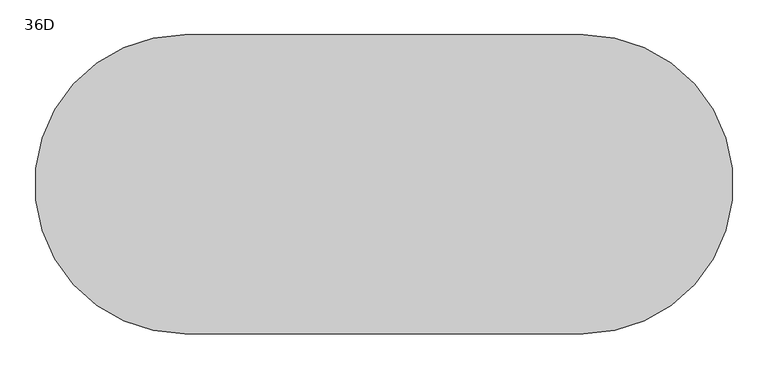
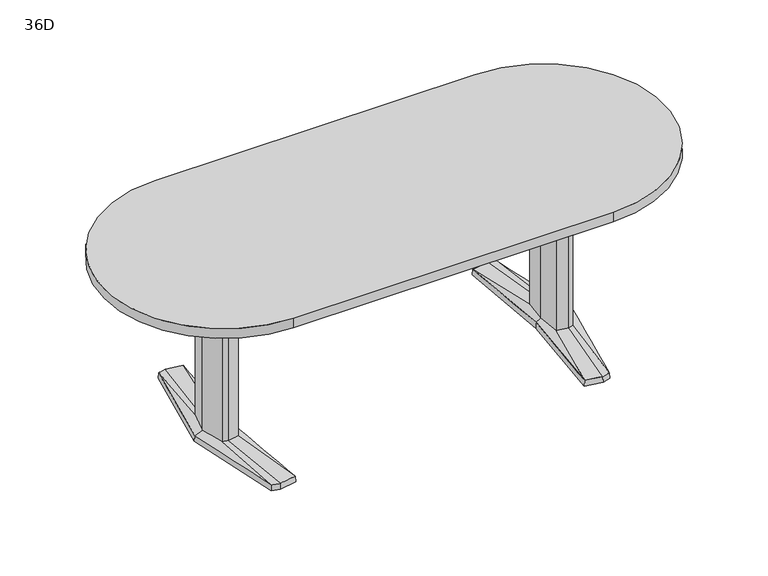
"""IFC4 building model written with IfcOpenShell, lengths in millimetres: furniture geometry, Coalesse_AM_Table_Conference_ETable2_Racetrack_84in_AluminiumBase : 36D."""

from ifc_helpers import new_model, si_unit, point, frame, frame_2d, origin, place, context, project, spatial, polyline, circle_curve, trimmed, segment, composite_curve, outline, extrude, source, transform, mapped, element, save
from ifc_brep_helpers import plane_surface, spline_surface, advanced_brep


def furniture_36d_a4c65f50(model_context):
    return source(origin(), model_context, "Body", "SolidModel", [
        advanced_brep(
        [(614.8503471, -379.3768856, 25.4), (644.5756636, -371.5332654, 25.4), (668.2327243, -89.293702, 36.5125), (648.9795254, -94.605478, 36.5125), (606.0521001, -87.0529327, 36.5125), (551.7612538, -368.5071562, 25.4), (597.9364207, 0.0, 36.5125), (579.8389754, 0.3970149, 25.4), (606.0521001, 87.0529327, 36.5125), (551.7615002, 368.5172593, 25.4), (648.9795254, 94.605478, 36.5125), (614.8502233, 379.3769183, 25.4), (668.2327243, 89.293702, 36.5125), (644.7535458, 371.4863276, 25.4), (692.1595251, 0.0, 36.5125), (721.4851663, 0.0003516, 25.4), (578.2468742, 0.3968871, 3.175), (550.06875, 369.8367279, 3.175), (614.9213004, 381.0, 3.175), (646.1093245, 372.7704151, 3.175), (723.10625, 0.0, 3.175), (645.9309817, -372.8174744, 3.175), (614.9213004, -381.0, 3.175), (550.06875, -369.8264415, 3.175), (649.5979264, 107.6121478, 3.175), (594.3065451, 97.8843184, 3.175), (585.1810887, 0.0, 3.175), (594.3065451, -97.8843184, 3.175), (649.5979264, -107.6121478, 3.175), (678.6183473, -99.6056872, 3.175), (705.3083085, 0.0, 3.175), (678.6183473, 99.6056872, 3.175), (613.4286812, 346.9152841, 3.175), (557.7811371, 337.3364985, 3.175), (560.1889918, 324.8641942, 3.175), (612.8600644, 333.9306305, 3.175), (648.6725609, 324.4807859, 3.175), (647.5544526, 337.9105158, 3.175), (613.4286812, -346.9152841, 3.175), (647.5544526, -337.9105158, 3.175), (648.6725609, -324.4807859, 3.175), (612.8600644, -333.9306305, 3.175), (560.1889918, -324.8641942, 3.175), (557.7811371, -337.3364985, 3.175), (649.5979264, 107.6121478, 0.0), (678.6183473, 99.6056872, 0.0), (705.3083085, 0.0, 0.0), (678.6183473, -99.6056872, 0.0), (649.5979264, -107.6121478, 0.0), (594.3065451, -97.8843184, 0.0), (585.1810887, 0.0, 0.0), (594.3065451, 97.8843184, 0.0), (613.4286812, 346.9152841, 0.0), (647.5544526, 337.9105158, 0.0), (648.6725609, 324.4807859, 0.0), (612.8600644, 333.9306305, 0.0), (560.1889918, 324.8641942, 0.0), (557.7811371, 337.3364985, 0.0), (613.4286812, -346.9152841, 0.0), (557.7811371, -337.3364985, 0.0), (560.1889918, -324.8641942, 0.0), (612.8600644, -333.9306305, 0.0), (648.6725609, -324.4807859, 0.0), (647.5544526, -337.9105158, 0.0), (668.2327243, 89.293702, 698.5), (648.9795254, 94.605478, 698.5), (606.0521001, 87.0529327, 698.5), (597.9364207, 0.0, 698.5), (606.0521001, -87.0529327, 698.5), (648.9795254, -94.605478, 698.5), (668.2327243, -89.293702, 698.5), (692.1595251, 0.0, 698.5)],
        [
            (0, 1),
            (1, 2),
            (2, 3),
            (3, 0),
            (3, 4),
            (4, 5),
            (5, 0),
            (4, 6),
            (6, 7),
            (7, 5),
            (6, 8),
            (8, 9),
            (9, 7),
            (8, 10),
            (10, 11),
            (11, 9),
            (10, 12),
            (12, 13),
            (13, 11),
            (12, 14),
            (14, 15),
            (15, 13),
            (1, 15),
            (14, 2),
            (16, 17),
            (17, 18),
            (18, 19),
            (19, 20),
            (20, 21),
            (21, 22),
            (22, 23),
            (23, 16),
            (24, 25),
            (25, 26),
            (26, 27),
            (27, 28),
            (28, 29),
            (29, 30),
            (30, 31),
            (31, 24),
            (32, 33),
            (33, 34),
            (34, 35),
            (35, 36),
            (36, 37),
            (37, 32),
            (38, 39),
            (39, 40),
            (40, 41),
            (41, 42),
            (42, 43),
            (43, 38),
            (16, 7),
            (9, 17),
            (11, 18),
            (13, 19),
            (15, 20),
            (1, 21),
            (0, 22),
            (5, 23),
            (44, 45),
            (45, 46),
            (46, 47),
            (47, 48),
            (48, 49),
            (49, 50),
            (50, 51),
            (51, 44),
            (52, 53),
            (53, 54),
            (54, 55),
            (55, 56),
            (56, 57),
            (57, 52),
            (58, 59),
            (59, 60),
            (60, 61),
            (61, 62),
            (62, 63),
            (63, 58),
            (44, 24),
            (31, 45),
            (30, 46),
            (29, 47),
            (28, 48),
            (27, 49),
            (26, 50),
            (25, 51),
            (52, 32),
            (37, 53),
            (36, 54),
            (35, 55),
            (34, 56),
            (33, 57),
            (58, 38),
            (43, 59),
            (42, 60),
            (41, 61),
            (40, 62),
            (39, 63),
            (64, 65),
            (65, 66),
            (66, 67),
            (67, 68),
            (68, 69),
            (69, 70),
            (70, 71),
            (71, 64),
            (71, 14),
            (12, 64),
            (70, 2),
            (69, 3),
            (68, 4),
            (67, 6),
            (66, 8),
            (65, 10),
        ],
        [
            spline_surface(1, 1, [[(644.5756636, -371.5332654, 25.4), (614.8503471, -379.3768856, 25.4)], [(668.2327243, -89.293702, 36.5125), (648.9795254, -94.605478, 36.5125)]], [2, 2], [2, 2], [0.0, 1.0], [0.0, 1.0]),
            spline_surface(1, 1, [[(614.8503471, -379.3768856, 25.4), (551.7612538, -368.5071562, 25.4)], [(648.9795254, -94.605478, 36.5125), (606.0521001, -87.0529327, 36.5125)]], [2, 2], [2, 2], [0.0, 1.0], [0.0, 1.0]),
            spline_surface(1, 1, [[(551.7612538, -368.5071562, 25.4), (579.8389754, 0.3970149, 25.4)], [(606.0521001, -87.0529327, 36.5125), (597.9364207, 0.0, 36.5125)]], [2, 2], [2, 2], [0.0, 1.0], [0.0, 1.0]),
            spline_surface(1, 1, [[(579.8389754, 0.3970149, 25.4), (551.7615002, 368.5172593, 25.4)], [(597.9364207, 0.0, 36.5125), (606.0521001, 87.0529327, 36.5125)]], [2, 2], [2, 2], [0.0, 1.0], [0.0, 1.0]),
            spline_surface(1, 1, [[(551.7615002, 368.5172593, 25.4), (614.8502233, 379.3769183, 25.4)], [(606.0521001, 87.0529327, 36.5125), (648.9795254, 94.605478, 36.5125)]], [2, 2], [2, 2], [0.0, 1.0], [0.0, 1.0]),
            spline_surface(1, 1, [[(614.8502233, 379.3769183, 25.4), (644.7535458, 371.4863276, 25.4)], [(648.9795254, 94.605478, 36.5125), (668.2327243, 89.293702, 36.5125)]], [2, 2], [2, 2], [0.0, 1.0], [0.0, 1.0]),
            spline_surface(1, 1, [[(644.7535458, 371.4863276, 25.4), (721.4851663, 0.0003516, 25.4)], [(668.2327243, 89.293702, 36.5125), (692.1595251, 0.0, 36.5125)]], [2, 2], [2, 2], [0.0, 1.0], [0.0, 1.0]),
            spline_surface(1, 1, [[(721.4851663, 0.0003516, 25.4), (644.5756636, -371.5332654, 25.4)], [(692.1595251, 0.0, 36.5125), (668.2327243, -89.293702, 36.5125)]], [2, 2], [2, 2], [0.0, 1.0], [0.0, 1.0]),
            plane_surface(frame((615.4216914, 0.0450143, 3.175), z_axis=(0.0, 0.0, -1.0), x_axis=(-0.9669048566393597, -0.2551372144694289, 0.0))),
            plane_surface(frame((564.1578121, 185.1168075, 3.175), z_axis=(-0.9945699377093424, -0.07585840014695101, 0.0712470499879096), x_axis=(-0.07605167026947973, 0.9971038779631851, 0.0))),
            plane_surface(frame((582.4950252, 375.418364, 3.175), z_axis=(-0.1692071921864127, 0.9830019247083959, 0.07124704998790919), x_axis=(0.985506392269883, 0.16963829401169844, 0.0))),
            plane_surface(frame((630.5153124, 376.8852076, 3.175), z_axis=(0.2544888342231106, 0.9644476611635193, 0.07124704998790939), x_axis=(0.9669048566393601, -0.25513721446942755, 0.0))),
            plane_surface(frame((684.6077872, 186.3852076, 3.175), z_axis=(0.9768383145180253, 0.2017690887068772, 0.07124704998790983), x_axis=(0.20228315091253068, -0.9793270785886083, 0.0))),
            plane_surface(frame((684.5186158, -186.4087372, 3.175), z_axis=(0.9767507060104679, -0.20219276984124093, 0.07124704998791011), x_axis=(-0.2027079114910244, -0.9792392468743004, 0.0))),
            plane_surface(frame((630.426141, -376.9087372, 3.175), z_axis=(0.2544888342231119, -0.9644476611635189, 0.0712470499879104), x_axis=(-0.9669048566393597, -0.2551372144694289, 0.0))),
            plane_surface(frame((582.4950252, -375.4132207, 3.175), z_axis=(-0.16935861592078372, -0.982975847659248, 0.07124704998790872), x_axis=(-0.9854802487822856, 0.16979010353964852, 0.0))),
            plane_surface(frame((564.1578121, -184.7147772, 3.175), z_axis=(-0.9945820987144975, 0.07569878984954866, 0.07124704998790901), x_axis=(0.07589165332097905, 0.9971160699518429, 0.0))),
            plane_surface(frame((652.3571479, 106.8509046, 0.0), z_axis=(0.0, 0.0, -1.0000000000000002), x_axis=(-0.9639855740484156, 0.26595453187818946, 0.0))),
            plane_surface(frame((649.5979264, 107.6121478, 3.175), z_axis=(0.26595453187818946, 0.9639855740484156, 0.0), x_axis=(0.0, 0.0, -1.0))),
            plane_surface(frame((678.6183473, 99.6056872, 3.175), z_axis=(0.9659241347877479, 0.2588253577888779, 0.0), x_axis=(0.0, 0.0, -1.0))),
            plane_surface(frame((705.3083085, 0.0, 3.175), z_axis=(0.9659241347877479, -0.2588253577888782, 0.0), x_axis=(0.0, 0.0, -1.0))),
            plane_surface(frame((678.6183473, -99.6056872, 3.175), z_axis=(0.26595453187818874, -0.9639855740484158, 0.0), x_axis=(0.0, 0.0, -1.0))),
            plane_surface(frame((649.5979264, -107.6121478, 3.175), z_axis=(-0.17327617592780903, -0.9848732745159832, 0.0), x_axis=(0.0, 0.0, -1.0))),
            plane_surface(frame((594.3065451, -97.8843184, 3.175), z_axis=(-0.9956824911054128, -0.0928244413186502, 0.0), x_axis=(0.0, 0.0, -1.0))),
            plane_surface(frame((585.1810887, 0.0, 3.175), z_axis=(-0.9956824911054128, 0.09282444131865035, 0.0), x_axis=(0.0, 0.0, -1.0))),
            plane_surface(frame((594.3065451, 97.8843184, 3.175), z_axis=(-0.17327617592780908, 0.984873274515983, 0.0), x_axis=(0.0, 0.0, -1.0))),
            plane_surface(frame((613.4286812, 346.9152841, 3.175), z_axis=(0.25513721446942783, 0.9669048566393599, 0.0), x_axis=(0.0, 0.0, -1.0))),
            plane_surface(frame((647.5544526, 337.9105158, 3.175), z_axis=(0.9965521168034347, 0.0829691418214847, 0.0), x_axis=(0.0, 0.0, -1.0))),
            plane_surface(frame((648.6725609, 324.4807859, 3.175), z_axis=(-0.25513721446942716, -0.9669048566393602, 0.0), x_axis=(0.0, 0.0, -1.0))),
            plane_surface(frame((612.8600644, 333.9306305, 3.175), z_axis=(0.16963829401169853, -0.985506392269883, 0.0), x_axis=(0.0, 0.0, -1.0))),
            plane_surface(frame((560.1889918, 324.8641942, 3.175), z_axis=(-0.9818699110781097, -0.18955600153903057, 0.0), x_axis=(0.0, 0.0, -1.0))),
            plane_surface(frame((557.7811371, 337.3364985, 3.175), z_axis=(-0.16963829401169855, 0.9855063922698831, 0.0), x_axis=(0.0, 0.0, -1.0))),
            plane_surface(frame((613.4286812, -346.9152841, 3.175), z_axis=(-0.1696382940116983, -0.9855063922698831, 0.0), x_axis=(0.0, 0.0, -1.0))),
            plane_surface(frame((557.7811371, -337.3364985, 3.175), z_axis=(-0.9818699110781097, 0.18955600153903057, 0.0), x_axis=(0.0, 0.0, -1.0))),
            plane_surface(frame((560.1889918, -324.8641942, 3.175), z_axis=(0.16963829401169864, 0.985506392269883, 0.0), x_axis=(0.0, 0.0, -1.0))),
            plane_surface(frame((612.8600644, -333.9306305, 3.175), z_axis=(-0.2551372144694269, 0.9669048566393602, 0.0), x_axis=(0.0, 0.0, -1.0))),
            plane_surface(frame((648.6725609, -324.4807859, 3.175), z_axis=(0.9965521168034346, -0.0829691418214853, 0.0), x_axis=(0.0, 0.0, -1.0))),
            plane_surface(frame((647.5544526, -337.9105158, 3.175), z_axis=(0.2551372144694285, -0.9669048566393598, 0.0), x_axis=(0.0, 0.0, -1.0))),
            plane_surface(frame((692.1595251, 0.0, 698.5), z_axis=(0.0, 0.0, 1.0), x_axis=(0.25882535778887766, -0.965924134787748, 0.0))),
            plane_surface(frame((668.2327243, 89.293702, 698.5), z_axis=(0.965924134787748, 0.25882535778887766, 0.0), x_axis=(0.0, 0.0, -1.0))),
            plane_surface(frame((692.1595251, 0.0, 698.5), z_axis=(0.965924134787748, -0.2588253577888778, 0.0), x_axis=(0.0, 0.0, -1.0))),
            plane_surface(frame((668.2327243, -89.293702, 698.5), z_axis=(0.2659545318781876, -0.963985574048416, 0.0), x_axis=(0.0, 0.0, -1.0))),
            plane_surface(frame((648.9795254, -94.605478, 698.5), z_axis=(-0.1732761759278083, -0.9848732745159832, 0.0), x_axis=(0.0, 0.0, -1.0))),
            plane_surface(frame((606.0521001, -87.0529327, 698.5), z_axis=(-0.9956824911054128, -0.0928244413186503, 0.0), x_axis=(0.0, 0.0, -1.0))),
            plane_surface(frame((597.9364207, 0.0, 698.5), z_axis=(-0.9956824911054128, 0.09282444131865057, 0.0), x_axis=(0.0, 0.0, -1.0))),
            plane_surface(frame((606.0521001, 87.0529327, 698.5), z_axis=(-0.17327617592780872, 0.9848732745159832, 0.0), x_axis=(0.0, 0.0, -1.0))),
            plane_surface(frame((648.9795254, 94.605478, 698.5), z_axis=(0.26595453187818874, 0.9639855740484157, 0.0), x_axis=(0.0, 0.0, -1.0))),
        ],
        [
            (0, [[1, 2, 3, 4]]),
            (1, [[5, 6, 7, -4]]),
            (2, [[8, 9, 10, -6]]),
            (3, [[11, 12, 13, -9]]),
            (4, [[14, 15, 16, -12]]),
            (5, [[17, 18, 19, -15]]),
            (6, [[20, 21, 22, -18]]),
            (7, [[23, -21, 24, -2]]),
            (8, [[25, 26, 27, 28, 29, 30, 31, 32], [33, 34, 35, 36, 37, 38, 39, 40], [41, 42, 43, 44, 45, 46], [47, 48, 49, 50, 51, 52]]),
            (9, [[53, -13, 54, -25]]),
            (10, [[-54, -16, 55, -26]]),
            (11, [[-55, -19, 56, -27]]),
            (12, [[-56, -22, 57, -28]]),
            (13, [[-57, -23, 58, -29]]),
            (14, [[-58, -1, 59, -30]]),
            (15, [[-59, -7, 60, -31]]),
            (16, [[-60, -10, -53, -32]]),
            (17, [[61, 62, 63, 64, 65, 66, 67, 68]]),
            (17, [[69, 70, 71, 72, 73, 74]]),
            (17, [[75, 76, 77, 78, 79, 80]]),
            (18, [[81, -40, 82, -61]]),
            (19, [[-82, -39, 83, -62]]),
            (20, [[-83, -38, 84, -63]]),
            (21, [[-84, -37, 85, -64]]),
            (22, [[-85, -36, 86, -65]]),
            (23, [[-86, -35, 87, -66]]),
            (24, [[-87, -34, 88, -67]]),
            (25, [[-88, -33, -81, -68]]),
            (26, [[89, -46, 90, -69]]),
            (27, [[-90, -45, 91, -70]]),
            (28, [[-91, -44, 92, -71]]),
            (29, [[-92, -43, 93, -72]]),
            (30, [[-93, -42, 94, -73]]),
            (31, [[-94, -41, -89, -74]]),
            (32, [[95, -52, 96, -75]]),
            (33, [[-96, -51, 97, -76]]),
            (34, [[-97, -50, 98, -77]]),
            (35, [[-98, -49, 99, -78]]),
            (36, [[-99, -48, 100, -79]]),
            (37, [[-100, -47, -95, -80]]),
            (38, [[101, 102, 103, 104, 105, 106, 107, 108]]),
            (39, [[109, -20, 110, -108]]),
            (40, [[111, -24, -109, -107]]),
            (41, [[112, -3, -111, -106]]),
            (42, [[113, -5, -112, -105]]),
            (43, [[114, -8, -113, -104]]),
            (44, [[115, -11, -114, -103]]),
            (45, [[116, -14, -115, -102]]),
            (46, [[-110, -17, -116, -101]]),
        ],
    ),
        advanced_brep(
        [(-614.8503471, -379.3768856, 25.4), (-648.9795254, -94.605478, 36.5125), (-668.2327243, -89.293702, 36.5125), (-644.5756636, -371.5332654, 25.4), (-551.7612538, -368.5071562, 25.4), (-606.0521001, -87.0529327, 36.5125), (-579.8389754, 0.3970149, 25.4), (-597.9364207, 0.0, 36.5125), (-551.7615002, 368.5172593, 25.4), (-606.0521001, 87.0529327, 36.5125), (-614.8502233, 379.3769183, 25.4), (-648.9795254, 94.605478, 36.5125), (-644.7535458, 371.4863276, 25.4), (-668.2327243, 89.293702, 36.5125), (-721.4851663, 0.0003516, 25.4), (-692.1595251, 0.0, 36.5125), (-578.2468742, 0.3968871, 3.175), (-550.06875, -369.8264415, 3.175), (-614.9213004, -381.0, 3.175), (-645.9309817, -372.8174744, 3.175), (-723.10625, 0.0, 3.175), (-646.1093245, 372.7704151, 3.175), (-614.9213004, 381.0, 3.175), (-550.06875, 369.8367279, 3.175), (-649.5979264, 107.6121478, 3.175), (-678.6183473, 99.6056872, 3.175), (-705.3083085, 0.0, 3.175), (-678.6183473, -99.6056872, 3.175), (-649.5979264, -107.6121478, 3.175), (-594.3065451, -97.8843184, 3.175), (-585.1810887, 0.0, 3.175), (-594.3065451, 97.8843184, 3.175), (-613.4286812, 346.9152841, 3.175), (-647.5544526, 337.9105158, 3.175), (-648.6725609, 324.4807859, 3.175), (-612.8600644, 333.9306305, 3.175), (-560.1889918, 324.8641942, 3.175), (-557.7811371, 337.3364985, 3.175), (-613.4286812, -346.9152841, 3.175), (-557.7811371, -337.3364985, 3.175), (-560.1889918, -324.8641942, 3.175), (-612.8600644, -333.9306305, 3.175), (-648.6725609, -324.4807859, 3.175), (-647.5544526, -337.9105158, 3.175), (-649.5979264, 107.6121478, 0.0), (-594.3065451, 97.8843184, 0.0), (-585.1810887, 0.0, 0.0), (-594.3065451, -97.8843184, 0.0), (-649.5979264, -107.6121478, 0.0), (-678.6183473, -99.6056872, 0.0), (-705.3083085, 0.0, 0.0), (-678.6183473, 99.6056872, 0.0), (-613.4286812, 346.9152841, 0.0), (-557.7811371, 337.3364985, 0.0), (-560.1889918, 324.8641942, 0.0), (-612.8600644, 333.9306305, 0.0), (-648.6725609, 324.4807859, 0.0), (-647.5544526, 337.9105158, 0.0), (-613.4286812, -346.9152841, 0.0), (-647.5544526, -337.9105158, 0.0), (-648.6725609, -324.4807859, 0.0), (-612.8600644, -333.9306305, 0.0), (-560.1889918, -324.8641942, 0.0), (-557.7811371, -337.3364985, 0.0), (-668.2327243, 89.293702, 698.5), (-692.1595251, 0.0, 698.5), (-668.2327243, -89.293702, 698.5), (-648.9795254, -94.605478, 698.5), (-606.0521001, -87.0529327, 698.5), (-597.9364207, 0.0, 698.5), (-606.0521001, 87.0529327, 698.5), (-648.9795254, 94.605478, 698.5)],
        [
            (0, 1),
            (1, 2),
            (2, 3),
            (3, 0),
            (0, 4),
            (4, 5),
            (5, 1),
            (4, 6),
            (6, 7),
            (7, 5),
            (6, 8),
            (8, 9),
            (9, 7),
            (8, 10),
            (10, 11),
            (11, 9),
            (10, 12),
            (12, 13),
            (13, 11),
            (12, 14),
            (14, 15),
            (15, 13),
            (2, 15),
            (14, 3),
            (16, 17),
            (17, 18),
            (18, 19),
            (19, 20),
            (20, 21),
            (21, 22),
            (22, 23),
            (23, 16),
            (24, 25),
            (25, 26),
            (26, 27),
            (27, 28),
            (28, 29),
            (29, 30),
            (30, 31),
            (31, 24),
            (32, 33),
            (33, 34),
            (34, 35),
            (35, 36),
            (36, 37),
            (37, 32),
            (38, 39),
            (39, 40),
            (40, 41),
            (41, 42),
            (42, 43),
            (43, 38),
            (23, 8),
            (6, 16),
            (22, 10),
            (21, 12),
            (20, 14),
            (19, 3),
            (18, 0),
            (17, 4),
            (44, 45),
            (45, 46),
            (46, 47),
            (47, 48),
            (48, 49),
            (49, 50),
            (50, 51),
            (51, 44),
            (52, 53),
            (53, 54),
            (54, 55),
            (55, 56),
            (56, 57),
            (57, 52),
            (58, 59),
            (59, 60),
            (60, 61),
            (61, 62),
            (62, 63),
            (63, 58),
            (51, 25),
            (24, 44),
            (50, 26),
            (49, 27),
            (48, 28),
            (47, 29),
            (46, 30),
            (45, 31),
            (57, 33),
            (32, 52),
            (56, 34),
            (55, 35),
            (54, 36),
            (53, 37),
            (63, 39),
            (38, 58),
            (62, 40),
            (61, 41),
            (60, 42),
            (59, 43),
            (64, 65),
            (65, 66),
            (66, 67),
            (67, 68),
            (68, 69),
            (69, 70),
            (70, 71),
            (71, 64),
            (64, 13),
            (15, 65),
            (2, 66),
            (1, 67),
            (5, 68),
            (7, 69),
            (9, 70),
            (11, 71),
        ],
        [
            spline_surface(1, 1, [[(-644.5756636, -371.5332654, 25.4), (-668.2327243, -89.293702, 36.5125)], [(-614.8503471, -379.3768856, 25.4), (-648.9795254, -94.605478, 36.5125)]], [2, 2], [2, 2], [0.0, 1.0], [0.0, 1.0]),
            spline_surface(1, 1, [[(-614.8503471, -379.3768856, 25.4), (-648.9795254, -94.605478, 36.5125)], [(-551.7612538, -368.5071562, 25.4), (-606.0521001, -87.0529327, 36.5125)]], [2, 2], [2, 2], [0.0, 1.0], [0.0, 1.0]),
            spline_surface(1, 1, [[(-551.7612538, -368.5071562, 25.4), (-606.0521001, -87.0529327, 36.5125)], [(-579.8389754, 0.3970149, 25.4), (-597.9364207, 0.0, 36.5125)]], [2, 2], [2, 2], [0.0, 1.0], [0.0, 1.0]),
            spline_surface(1, 1, [[(-579.8389754, 0.3970149, 25.4), (-597.9364207, 0.0, 36.5125)], [(-551.7615002, 368.5172593, 25.4), (-606.0521001, 87.0529327, 36.5125)]], [2, 2], [2, 2], [0.0, 1.0], [0.0, 1.0]),
            spline_surface(1, 1, [[(-551.7615002, 368.5172593, 25.4), (-606.0521001, 87.0529327, 36.5125)], [(-614.8502233, 379.3769183, 25.4), (-648.9795254, 94.605478, 36.5125)]], [2, 2], [2, 2], [0.0, 1.0], [0.0, 1.0]),
            spline_surface(1, 1, [[(-614.8502233, 379.3769183, 25.4), (-648.9795254, 94.605478, 36.5125)], [(-644.7535458, 371.4863276, 25.4), (-668.2327243, 89.293702, 36.5125)]], [2, 2], [2, 2], [0.0, 1.0], [0.0, 1.0]),
            spline_surface(1, 1, [[(-644.7535458, 371.4863276, 25.4), (-668.2327243, 89.293702, 36.5125)], [(-721.4851663, 0.0003516, 25.4), (-692.1595251, 0.0, 36.5125)]], [2, 2], [2, 2], [0.0, 1.0], [0.0, 1.0]),
            spline_surface(1, 1, [[(-721.4851663, 0.0003516, 25.4), (-692.1595251, 0.0, 36.5125)], [(-644.5756636, -371.5332654, 25.4), (-668.2327243, -89.293702, 36.5125)]], [2, 2], [2, 2], [0.0, 1.0], [0.0, 1.0]),
            plane_surface(frame((-615.4216914, 0.0450143, 3.175), z_axis=(0.0, 0.0, -1.0), x_axis=(0.9669048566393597, -0.2551372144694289, 0.0))),
            plane_surface(frame((-564.1578121, 185.1168075, 3.175), z_axis=(0.9945699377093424, -0.07585840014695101, 0.0712470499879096), x_axis=(0.07605167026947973, 0.9971038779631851, 0.0))),
            plane_surface(frame((-582.4950252, 375.418364, 3.175), z_axis=(0.1692071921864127, 0.9830019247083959, 0.07124704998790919), x_axis=(-0.985506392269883, 0.16963829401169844, 0.0))),
            plane_surface(frame((-630.5153124, 376.8852076, 3.175), z_axis=(-0.2544888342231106, 0.9644476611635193, 0.07124704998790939), x_axis=(-0.9669048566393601, -0.25513721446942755, 0.0))),
            plane_surface(frame((-684.6077872, 186.3852076, 3.175), z_axis=(-0.9768383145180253, 0.2017690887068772, 0.07124704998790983), x_axis=(-0.20228315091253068, -0.9793270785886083, 0.0))),
            plane_surface(frame((-684.5186158, -186.4087372, 3.175), z_axis=(-0.9767507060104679, -0.20219276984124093, 0.07124704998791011), x_axis=(0.2027079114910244, -0.9792392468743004, 0.0))),
            plane_surface(frame((-630.426141, -376.9087372, 3.175), z_axis=(-0.2544888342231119, -0.9644476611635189, 0.0712470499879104), x_axis=(0.9669048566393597, -0.2551372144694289, 0.0))),
            plane_surface(frame((-582.4950252, -375.4132207, 3.175), z_axis=(0.16935861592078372, -0.982975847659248, 0.07124704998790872), x_axis=(0.9854802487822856, 0.16979010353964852, 0.0))),
            plane_surface(frame((-564.1578121, -184.7147772, 3.175), z_axis=(0.9945820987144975, 0.07569878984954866, 0.07124704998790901), x_axis=(-0.07589165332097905, 0.9971160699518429, 0.0))),
            plane_surface(frame((-652.3571479, 106.8509046, 0.0), z_axis=(0.0, 0.0, -1.0000000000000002), x_axis=(0.9639855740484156, 0.26595453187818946, 0.0))),
            plane_surface(frame((-649.5979264, 107.6121478, 3.175), z_axis=(-0.26595453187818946, 0.9639855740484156, 0.0), x_axis=(0.0, 0.0, -1.0))),
            plane_surface(frame((-678.6183473, 99.6056872, 3.175), z_axis=(-0.9659241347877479, 0.2588253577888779, 0.0), x_axis=(0.0, 0.0, -1.0))),
            plane_surface(frame((-705.3083085, 0.0, 3.175), z_axis=(-0.9659241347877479, -0.2588253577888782, 0.0), x_axis=(0.0, 0.0, -1.0))),
            plane_surface(frame((-678.6183473, -99.6056872, 3.175), z_axis=(-0.26595453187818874, -0.9639855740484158, 0.0), x_axis=(0.0, 0.0, -1.0))),
            plane_surface(frame((-649.5979264, -107.6121478, 3.175), z_axis=(0.17327617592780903, -0.9848732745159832, 0.0), x_axis=(0.0, 0.0, -1.0))),
            plane_surface(frame((-594.3065451, -97.8843184, 3.175), z_axis=(0.9956824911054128, -0.0928244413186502, 0.0), x_axis=(0.0, 0.0, -1.0))),
            plane_surface(frame((-585.1810887, 0.0, 3.175), z_axis=(0.9956824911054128, 0.09282444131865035, 0.0), x_axis=(0.0, 0.0, -1.0))),
            plane_surface(frame((-594.3065451, 97.8843184, 3.175), z_axis=(0.17327617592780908, 0.984873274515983, 0.0), x_axis=(0.0, 0.0, -1.0))),
            plane_surface(frame((-613.4286812, 346.9152841, 3.175), z_axis=(-0.25513721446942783, 0.9669048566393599, 0.0), x_axis=(0.0, 0.0, -1.0))),
            plane_surface(frame((-647.5544526, 337.9105158, 3.175), z_axis=(-0.9965521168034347, 0.0829691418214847, 0.0), x_axis=(0.0, 0.0, -1.0))),
            plane_surface(frame((-648.6725609, 324.4807859, 3.175), z_axis=(0.25513721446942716, -0.9669048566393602, 0.0), x_axis=(0.0, 0.0, -1.0))),
            plane_surface(frame((-612.8600644, 333.9306305, 3.175), z_axis=(-0.16963829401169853, -0.985506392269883, 0.0), x_axis=(0.0, 0.0, -1.0))),
            plane_surface(frame((-560.1889918, 324.8641942, 3.175), z_axis=(0.9818699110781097, -0.18955600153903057, 0.0), x_axis=(0.0, 0.0, -1.0))),
            plane_surface(frame((-557.7811371, 337.3364985, 3.175), z_axis=(0.16963829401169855, 0.9855063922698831, 0.0), x_axis=(0.0, 0.0, -1.0))),
            plane_surface(frame((-613.4286812, -346.9152841, 3.175), z_axis=(0.1696382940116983, -0.9855063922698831, 0.0), x_axis=(0.0, 0.0, -1.0))),
            plane_surface(frame((-557.7811371, -337.3364985, 3.175), z_axis=(0.9818699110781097, 0.18955600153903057, 0.0), x_axis=(0.0, 0.0, -1.0))),
            plane_surface(frame((-560.1889918, -324.8641942, 3.175), z_axis=(-0.16963829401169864, 0.985506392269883, 0.0), x_axis=(0.0, 0.0, -1.0))),
            plane_surface(frame((-612.8600644, -333.9306305, 3.175), z_axis=(0.2551372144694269, 0.9669048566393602, 0.0), x_axis=(0.0, 0.0, -1.0))),
            plane_surface(frame((-648.6725609, -324.4807859, 3.175), z_axis=(-0.9965521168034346, -0.0829691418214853, 0.0), x_axis=(0.0, 0.0, -1.0))),
            plane_surface(frame((-647.5544526, -337.9105158, 3.175), z_axis=(-0.2551372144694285, -0.9669048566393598, 0.0), x_axis=(0.0, 0.0, -1.0))),
            plane_surface(frame((-692.1595251, 0.0, 698.5), z_axis=(0.0, 0.0, 1.0), x_axis=(-0.25882535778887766, -0.965924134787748, 0.0))),
            plane_surface(frame((-668.2327243, 89.293702, 698.5), z_axis=(-0.965924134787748, 0.25882535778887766, 0.0), x_axis=(0.0, 0.0, -1.0))),
            plane_surface(frame((-692.1595251, 0.0, 698.5), z_axis=(-0.965924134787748, -0.2588253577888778, 0.0), x_axis=(0.0, 0.0, -1.0))),
            plane_surface(frame((-668.2327243, -89.293702, 698.5), z_axis=(-0.2659545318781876, -0.963985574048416, 0.0), x_axis=(0.0, 0.0, -1.0))),
            plane_surface(frame((-648.9795254, -94.605478, 698.5), z_axis=(0.1732761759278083, -0.9848732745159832, 0.0), x_axis=(0.0, 0.0, -1.0))),
            plane_surface(frame((-606.0521001, -87.0529327, 698.5), z_axis=(0.9956824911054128, -0.0928244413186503, 0.0), x_axis=(0.0, 0.0, -1.0))),
            plane_surface(frame((-597.9364207, 0.0, 698.5), z_axis=(0.9956824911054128, 0.09282444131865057, 0.0), x_axis=(0.0, 0.0, -1.0))),
            plane_surface(frame((-606.0521001, 87.0529327, 698.5), z_axis=(0.17327617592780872, 0.9848732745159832, 0.0), x_axis=(0.0, 0.0, -1.0))),
            plane_surface(frame((-648.9795254, 94.605478, 698.5), z_axis=(-0.26595453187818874, 0.9639855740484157, 0.0), x_axis=(0.0, 0.0, -1.0))),
        ],
        [
            (0, [[1, 2, 3, 4]]),
            (1, [[-1, 5, 6, 7]]),
            (2, [[-6, 8, 9, 10]]),
            (3, [[-9, 11, 12, 13]]),
            (4, [[-12, 14, 15, 16]]),
            (5, [[-15, 17, 18, 19]]),
            (6, [[-18, 20, 21, 22]]),
            (7, [[-3, 23, -21, 24]]),
            (8, [[25, 26, 27, 28, 29, 30, 31, 32], [33, 34, 35, 36, 37, 38, 39, 40], [41, 42, 43, 44, 45, 46], [47, 48, 49, 50, 51, 52]]),
            (9, [[-32, 53, -11, 54]]),
            (10, [[-31, 55, -14, -53]]),
            (11, [[-30, 56, -17, -55]]),
            (12, [[-29, 57, -20, -56]]),
            (13, [[-28, 58, -24, -57]]),
            (14, [[-27, 59, -4, -58]]),
            (15, [[-26, 60, -5, -59]]),
            (16, [[-25, -54, -8, -60]]),
            (17, [[61, 62, 63, 64, 65, 66, 67, 68]]),
            (17, [[69, 70, 71, 72, 73, 74]]),
            (17, [[75, 76, 77, 78, 79, 80]]),
            (18, [[-68, 81, -33, 82]]),
            (19, [[-67, 83, -34, -81]]),
            (20, [[-66, 84, -35, -83]]),
            (21, [[-65, 85, -36, -84]]),
            (22, [[-64, 86, -37, -85]]),
            (23, [[-63, 87, -38, -86]]),
            (24, [[-62, 88, -39, -87]]),
            (25, [[-61, -82, -40, -88]]),
            (26, [[-74, 89, -41, 90]]),
            (27, [[-73, 91, -42, -89]]),
            (28, [[-72, 92, -43, -91]]),
            (29, [[-71, 93, -44, -92]]),
            (30, [[-70, 94, -45, -93]]),
            (31, [[-69, -90, -46, -94]]),
            (32, [[-80, 95, -47, 96]]),
            (33, [[-79, 97, -48, -95]]),
            (34, [[-78, 98, -49, -97]]),
            (35, [[-77, 99, -50, -98]]),
            (36, [[-76, 100, -51, -99]]),
            (37, [[-75, -96, -52, -100]]),
            (38, [[101, 102, 103, 104, 105, 106, 107, 108]]),
            (39, [[-101, 109, -22, 110]]),
            (40, [[-102, -110, -23, 111]]),
            (41, [[-103, -111, -2, 112]]),
            (42, [[-104, -112, -7, 113]]),
            (43, [[-105, -113, -10, 114]]),
            (44, [[-106, -114, -13, 115]]),
            (45, [[-107, -115, -16, 116]]),
            (46, [[-108, -116, -19, -109]]),
        ],
    ),
        extrude(outline(composite_curve([segment(trimmed(circle_curve(frame_2d((609.6, 0.0)), 457.2), [point((609.6, 457.2))], [point((609.6, -457.2))], False, "CARTESIAN"), True, "CONTINUOUS"), segment(polyline([(609.6, -457.2), (-609.6, -457.2)]), True, "CONTINUOUS"), segment(trimmed(circle_curve(frame_2d((-609.6, 0.0)), 457.2), [point((-609.6, -457.2))], [point((-609.6, 457.2))], False, "CARTESIAN"), True, "CONTINUOUS"), segment(polyline([(-609.6, 457.2), (609.6, 457.2)]), True, "CONTINUOUS")], self_intersect=False)), frame((0.0, 0.0, 698.5), z_axis=(0.0, 0.0, 1.0), x_axis=(1.0, 0.0, 0.0)), (0.0, 0.0, 1.0), 38.1),
        extrude(outline(polyline([(96.8375, 698.5), (103.1875, 698.5), (103.1875, 476.25), (-103.1875, 476.25), (-103.1875, 698.5), (-96.8375, 698.5), (-96.8375, 482.6), (96.8375, 482.6), (96.8375, 698.5)])), frame((-597.9364207, 0.0, 0.0), z_axis=(1.0, 0.0, 0.0), x_axis=(0.0, 1.0, 0.0)), (0.0, 0.0, 1.0), 1195.8728415),
    ])


if __name__ == "__main__":
    model = new_model("IFC4")
    model_context = context("Model", 3, world=origin())
    ifc_project = project(units=[si_unit("LENGTHUNIT", "METRE", prefix="MILLI")], contexts=[model_context])
    site = spatial("IfcSite", under=ifc_project)
    building = spatial("IfcBuilding", under=site)
    placement = place(None, origin())
    furniture_36d_shape = furniture_36d_a4c65f50(model_context)
    element("IfcFurniture", 1, ObjectType="Coalesse_AM_Table_Conference_ETable2_Racetrack_84in_AluminiumBase : 36D", at=placement, inside=building, context=model_context, shape_type="MappedRepresentation", body=[
        mapped(furniture_36d_shape, transform((0.0, 0.0, 0.0), x_axis=(1.0, 0.0, 0.0), y_axis=(0.0, 1.0, 0.0), z_axis=(0.0, 0.0, 1.0))),
    ])
    save(model, "model.ifc")
